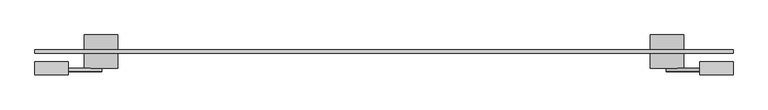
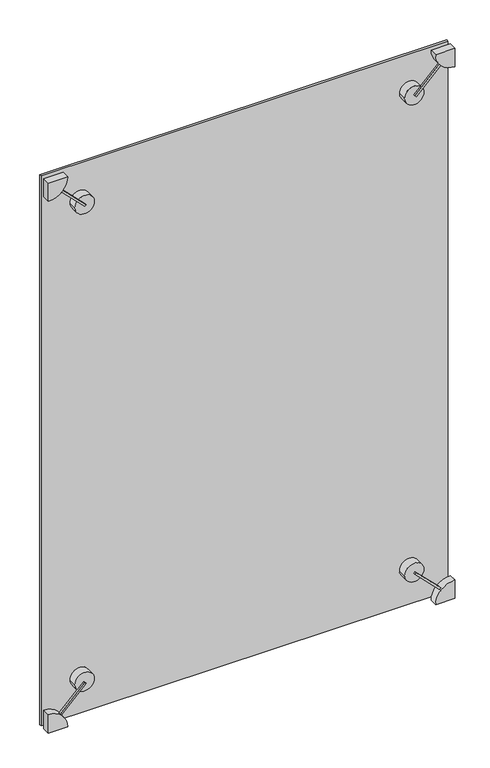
"""IFC4 building model written with IfcOpenShell, lengths in millimetres: plate geometry, 点爪式幕墙嵌板 : 点爪式幕墙嵌板."""

import ifcopenshell
import ifcopenshell.guid

model = None  # the IFC model being written
_history = None  # IfcOwnerHistory: only IFC2X3 demands one
_inside = {}  # id of a spatial element -> (the spatial element, [elements in it])
_under = {}  # id of a project, library or spatial element -> (it, [spatial elements below it])
_declared = {}  # id of a project -> (the project, [libraries it declares])
_typed = {}  # id of a type object -> (the type object, [elements of that type])
_made_of = {}  # id of a material, layer set ... -> (it, [elements and type objects made of it])


def new_model(schema):
    """Start an empty IFC model of exactly this schema.

    Asked for "IFC4X3", IfcOpenShell would pick the latest addendum, in which some entities
    have other attributes; the version numbers below select the first issue.
    IFC2X3 requires an IfcOwnerHistory on every rooted entity: one is made here for all.
    """
    global model, _history
    if schema == "IFC4X3":
        model = ifcopenshell.file(schema_version=(4, 3, 0, 0))
    else:
        model = ifcopenshell.file(schema=schema)
    _inside.clear()
    _under.clear()
    _declared.clear()
    _typed.clear()
    _made_of.clear()
    _history = None
    if model.schema == "IFC2X3":
        org = make("IfcOrganization", Name="unknown")
        user = make(
            "IfcPersonAndOrganization",
            ThePerson=make("IfcPerson", FamilyName="unknown"),
            TheOrganization=org,
        )
        app = make(
            "IfcApplication",
            ApplicationDeveloper=org,
            Version="unknown",
            ApplicationFullName="unknown",
            ApplicationIdentifier="unknown",
        )
        _history = make(
            "IfcOwnerHistory",
            OwningUser=user,
            OwningApplication=app,
            ChangeAction="ADDED",
            CreationDate=0,
        )
    return model


def make(cls, **values):
    """One entity of the class cls with the attributes given. An attribute that is None is left unset."""
    return model.create_entity(
        cls, **{name: value for name, value in values.items() if value is not None}
    )


def rooted(cls, **values):
    """An entity with a GlobalId (a new one), such as an element, a storey or a relation."""
    return make(cls, GlobalId=ifcopenshell.guid.new(), OwnerHistory=_history, **values)


def si_unit(unit_type, name, prefix=None):
    """IfcSIUnit, for example si_unit("LENGTHUNIT", "METRE", prefix="MILLI")."""
    return make("IfcSIUnit", UnitType=unit_type, Prefix=prefix, Name=name)


def assignment(units):
    """IfcUnitAssignment: the units of a project."""
    return None if units is None else make("IfcUnitAssignment", Units=units)


def point(xyz):
    """IfcCartesianPoint."""
    return None if xyz is None else make("IfcCartesianPoint", Coordinates=xyz)


def direction(xyz):
    """IfcDirection."""
    return None if xyz is None else make("IfcDirection", DirectionRatios=xyz)


def frame(location, z_axis=None, x_axis=None):
    """IfcAxis2Placement3D, a coordinate frame: its origin and axes. An axis left out is left unset."""
    return make(
        "IfcAxis2Placement3D",
        Location=point(location),
        Axis=direction(z_axis),
        RefDirection=direction(x_axis),
    )


def frame_2d(location, x_axis=None):
    """IfcAxis2Placement2D, a coordinate frame in the plane: its origin and x axis."""
    return make(
        "IfcAxis2Placement2D", Location=point(location), RefDirection=direction(x_axis)
    )


def origin():
    """The frame at (0, 0, 0) with its axes left unset."""
    return frame((0.0, 0.0, 0.0))


def origin_with_axes():
    """The frame at (0, 0, 0) with the z axis (0, 0, 1) and the x axis (1, 0, 0) written out."""
    return frame((0.0, 0.0, 0.0), z_axis=(0.0, 0.0, 1.0), x_axis=(1.0, 0.0, 0.0))


def place(relative_to, where):
    """IfcLocalPlacement: puts the frame where relative to a parent placement (None: the world)."""
    return make(
        "IfcLocalPlacement", PlacementRelTo=relative_to, RelativePlacement=where
    )


def context(
    kind, dimensions, precision=None, world=None, true_north=None, identifier=None
):
    """IfcGeometricRepresentationContext, for example the 3D "Model" context."""
    return make(
        "IfcGeometricRepresentationContext",
        ContextIdentifier=identifier,
        ContextType=kind,
        CoordinateSpaceDimension=dimensions,
        Precision=precision,
        WorldCoordinateSystem=world,
        TrueNorth=true_north,
    )


def project(units=None, contexts=None):
    """IfcProject with its units and contexts."""
    return rooted(
        "IfcProject",
        Name="project",
        RepresentationContexts=contexts,
        UnitsInContext=assignment(units),
    )


def spatial(cls, under=None, at=None, **own):
    """A site, building, storey or space (cls), placed at a placement, below another one or the project."""
    s = rooted(cls, ObjectPlacement=at, **own)
    if under is not None:
        _under.setdefault(under.id(), (under, []))[1].append(s)
    return s


def polyline(points):
    """IfcPolyline through the points."""
    return make("IfcPolyline", Points=[point(p) for p in points])


def circle_curve(where, radius):
    """IfcCircle in the frame where."""
    return make("IfcCircle", Position=where, Radius=radius)


def trimmed(basis, trim1, trim2, sense, master):
    """IfcTrimmedCurve: the piece of a basis curve between two trims."""
    return make(
        "IfcTrimmedCurve",
        BasisCurve=basis,
        Trim1=trim1,
        Trim2=trim2,
        SenseAgreement=sense,
        MasterRepresentation=master,
    )


def segment(curve, same_sense, transition):
    """IfcCompositeCurveSegment."""
    return make(
        "IfcCompositeCurveSegment",
        Transition=transition,
        SameSense=same_sense,
        ParentCurve=curve,
    )


def composite_curve(segments, self_intersect=None):
    """IfcCompositeCurve: segments joined end to end."""
    return make("IfcCompositeCurve", Segments=segments, SelfIntersect=self_intersect)


def outline(outer, holes=None, kind="AREA"):
    """IfcArbitraryClosedProfileDef: a profile drawn as a closed curve; with holes, ...WithVoids."""
    if holes is None:
        return make("IfcArbitraryClosedProfileDef", ProfileType=kind, OuterCurve=outer)
    return make(
        "IfcArbitraryProfileDefWithVoids",
        ProfileType=kind,
        OuterCurve=outer,
        InnerCurves=holes,
    )


def extrude(swept, where, along, depth):
    """IfcExtrudedAreaSolid: the profile swept, set in the frame where, extruded along a direction by depth."""
    return make(
        "IfcExtrudedAreaSolid",
        SweptArea=swept,
        Position=where,
        ExtrudedDirection=direction(along),
        Depth=depth,
    )


def shape(context_of_items, identifier, shape_type, items):
    """IfcShapeRepresentation: the items that make up one representation, for example the "Body"."""
    return make(
        "IfcShapeRepresentation",
        ContextOfItems=context_of_items,
        RepresentationIdentifier=identifier,
        RepresentationType=shape_type,
        Items=items,
    )


def source(mapping_origin, context_of_items, identifier, shape_type, items):
    """IfcRepresentationMap: a shape defined once, which mapped items show again and again."""
    return make(
        "IfcRepresentationMap",
        MappingOrigin=mapping_origin,
        MappedRepresentation=shape(context_of_items, identifier, shape_type, items),
    )


def transform(
    local_origin,
    x_axis=None,
    y_axis=None,
    z_axis=None,
    scale=None,
    scale2=None,
    scale3=None,
    uniform=True,
):
    """IfcCartesianTransformationOperator3D, or its non-uniform kind. x_axis, y_axis, z_axis: its Axis1, 2, 3."""
    if uniform:
        return make(
            "IfcCartesianTransformationOperator3D",
            Axis1=direction(x_axis),
            Axis2=direction(y_axis),
            LocalOrigin=point(local_origin),
            Scale=scale,
            Axis3=direction(z_axis),
        )
    return make(
        "IfcCartesianTransformationOperator3DnonUniform",
        Axis1=direction(x_axis),
        Axis2=direction(y_axis),
        LocalOrigin=point(local_origin),
        Scale=scale,
        Axis3=direction(z_axis),
        Scale2=scale2,
        Scale3=scale3,
    )


def mapped(mapping_source, mapping_target):
    """IfcMappedItem: shows the shape of a source again, moved by a transform."""
    return make(
        "IfcMappedItem", MappingSource=mapping_source, MappingTarget=mapping_target
    )


def made_of(thing, what):
    """Note that an element or type object is made of a material, layer set ...; save() writes the relation."""
    if what is not None:
        _made_of.setdefault(what.id(), (what, []))[1].append(thing)
    return thing


def element(
    cls,
    number,
    at=None,
    inside=None,
    cuts=None,
    type_object=None,
    material=None,
    context=None,
    identifier="Body",
    shape_type=None,
    held_by="IfcProductDefinitionShape",
    body=None,
    shapes=None,
    **own,
):
    """One element of the class cls, such as IfcWall. Its Tag is "e" and its number.

    at: its placement. inside: the storey or other place that contains it. cuts: it is an
    opening in that element (IfcRelVoidsElement). A single representation is given by context,
    identifier, shape_type and body (its items); several are given by shapes. held_by: the class
    of the entity that holds the representations. save() writes the other relations.
    """
    e = rooted(cls, Tag="e%d" % number, ObjectPlacement=at, **own)
    if body is not None:
        shapes = [shape(context, identifier, shape_type, body)]
    if shapes is not None:
        e.Representation = make(held_by, Representations=shapes)
    if inside is not None:
        _inside.setdefault(inside.id(), (inside, []))[1].append(e)
    if cuts is not None:
        rooted(
            "IfcRelVoidsElement", RelatingBuildingElement=cuts, RelatedOpeningElement=e
        )
    if type_object is not None:
        _typed.setdefault(type_object.id(), (type_object, []))[1].append(e)
    return made_of(e, material)


def aggregate(whole, parts):
    """IfcRelAggregates: a whole, such as a stair, and the parts it consists of."""
    return rooted("IfcRelAggregates", RelatingObject=whole, RelatedObjects=parts)


def save(model, path):
    """Write the relations noted so far, then the file.

    IfcRelAggregates (storeys below a building ...), IfcRelContainedInSpatialStructure (elements
    in a storey), IfcRelDefinesByType, IfcRelAssociatesMaterial and IfcRelDeclares: one each for
    every whole, place, type object, material and project.
    """
    for whole, parts in _under.values():
        aggregate(whole, parts)
    for where, things in _inside.values():
        rooted(
            "IfcRelContainedInSpatialStructure",
            RelatedElements=things,
            RelatingStructure=where,
        )
    for kind, things in _typed.values():
        rooted("IfcRelDefinesByType", RelatedObjects=things, RelatingType=kind)
    for what, things in _made_of.values():
        rooted("IfcRelAssociatesMaterial", RelatedObjects=things, RelatingMaterial=what)
    for by, libraries in _declared.values():
        rooted("IfcRelDeclares", RelatingContext=by, RelatedDefinitions=libraries)
    model.write(path)


def plane_surface(at):
    """IfcPlane: the flat surface through the origin of the frame at, square to its z axis."""
    return make("IfcPlane", Position=at)


def cylinder_surface(at, radius):
    """IfcCylindricalSurface: all points at the distance radius from the z axis of the frame at."""
    return make("IfcCylindricalSurface", Position=at, Radius=radius)


def advanced_brep(points, edges, surfaces, faces):
    """IfcAdvancedBrep: a solid bounded by faces that lie on surfaces and meet in shared edges.

    An edge is (start, end): straight between two places in points (the first is 0);
    or (start, end, curve); or (start, end, curve, False) where it runs against its curve.
    A face is (place in surfaces, loops), or (place, loops, False) where it looks against
    its surface's normal. A loop lists edges by number (the first is 1), with a minus sign
    where the edge is run from its end to its start. The first loop is the outer one.
    """
    corners = [point(p) for p in points]
    vertices = [make("IfcVertexPoint", VertexGeometry=c) for c in corners]
    made = []
    for start, end, *more in edges:
        made.append(
            make(
                "IfcEdgeCurve",
                EdgeStart=vertices[start],
                EdgeEnd=vertices[end],
                EdgeGeometry=more[0] if more else make("IfcPolyline", Points=[corners[start], corners[end]]),
                SameSense=more[1] if len(more) > 1 else True,
            )
        )
    hull = []
    for where, loops, *sense in faces:
        bounds = []
        for j, loop in enumerate(loops):
            ring = [make("IfcOrientedEdge", EdgeElement=made[abs(k) - 1], Orientation=k > 0) for k in loop]
            bounds.append(
                make(
                    "IfcFaceOuterBound" if j == 0 else "IfcFaceBound",
                    Bound=make("IfcEdgeLoop", EdgeList=ring),
                    Orientation=True,
                )
            )
        hull.append(make("IfcAdvancedFace", Bounds=bounds, FaceSurface=surfaces[where], SameSense=sense[0] if sense else True))
    return make("IfcAdvancedBrep", Outer=make("IfcClosedShell", CfsFaces=hull))


def plate_96117844(model_context):
    return source(origin(), model_context, "Body", "SolidModel", [
        extrude(outline(polyline([(0.0, -10.0), (0.0, 0.0), (10.0, 0.0), (10.0, -10.0), (0.0, -10.0)])), frame((-983.7667022, -60.0, 73.3043656), z_axis=(0.7071067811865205, 0.0, 0.7071067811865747), x_axis=(0.0, 1.0, 0.0)), (0.0, 0.0, 1.0), 181.331972),
        extrude(outline(composite_curve([segment(trimmed(circle_curve(frame_2d((0.0, -1050.0)), 100.0), [point((0.0, -950.0))], [point((100.0, -1050.0))], False, "CARTESIAN"), True, "CONTINUOUS"), segment(polyline([(100.0, -1050.0), (0.0, -1050.0), (0.0, -950.0)]), True, "CONTINUOUS")], self_intersect=False)), frame((0.0, -70.0, 0.0), z_axis=(0.0, 1.0, 0.0), x_axis=(0.0, 0.0, 1.0)), (0.0, 0.0, 1.0), 40.0),
        extrude(outline(composite_curve([segment(trimmed(circle_curve(frame_2d((199.0051024, -850.9948976)), 50.0), [point((199.0051024, -800.9948976))], [point((199.0051024, -900.9948976))], False, "CARTESIAN"), True, "CONTINUOUS"), segment(trimmed(circle_curve(frame_2d((199.0051024, -850.9948976)), 50.0), [point((199.0051024, -900.9948976))], [point((199.0051024, -800.9948976))], False, "CARTESIAN"), True, "CONTINUOUS")], self_intersect=False)), frame((0.0, -50.0, 0.0), z_axis=(0.0, 1.0, 0.0), x_axis=(0.0, 0.0, 1.0)), (0.0, 0.0, 1.0), 100.0),
        extrude(outline(polyline([(0.0, -181.3319719), (0.0, 0.0), (10.0, 0.0), (10.0, -181.3319719), (0.0, -181.3319719)])), frame((848.4745674, -60.0, 194.4543648), z_axis=(0.7071067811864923, 0.0, 0.7071067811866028), x_axis=(0.0, 1.0, 0.0)), (0.0, 0.0, 1.0), 10.0),
        extrude(outline(composite_curve([segment(polyline([(0.0, 950.0), (0.0, 1050.0), (100.0, 1050.0)]), True, "CONTINUOUS"), segment(trimmed(circle_curve(frame_2d((0.0, 1050.0)), 100.0), [point((100.0, 1050.0))], [point((0.0, 950.0))], False, "CARTESIAN"), True, "CONTINUOUS")], self_intersect=False)), frame((0.0, -70.0, 0.0), z_axis=(0.0, 1.0, 0.0), x_axis=(0.0, 0.0, 1.0)), (0.0, 0.0, 1.0), 40.0),
        extrude(outline(composite_curve([segment(trimmed(circle_curve(frame_2d((199.0051024, 850.9948976)), 50.0), [point((199.0051024, 800.9948976))], [point((199.0051024, 900.9948976))], False, "CARTESIAN"), True, "CONTINUOUS"), segment(trimmed(circle_curve(frame_2d((199.0051024, 850.9948976)), 50.0), [point((199.0051024, 900.9948976))], [point((199.0051024, 800.9948976))], False, "CARTESIAN"), True, "CONTINUOUS")], self_intersect=False)), frame((0.0, -50.0, 0.0), z_axis=(0.0, 1.0, 0.0), x_axis=(0.0, 0.0, 1.0)), (0.0, 0.0, 1.0), 100.0),
        extrude(outline(polyline([(0.0, -181.3319719), (0.0, 0.0), (10.0, 0.0), (10.0, -181.3319719), (0.0, -181.3319719)])), frame((-983.7667022, -60.0, 2926.6956344), z_axis=(0.7071067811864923, 0.0, 0.7071067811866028), x_axis=(0.0, 1.0, 0.0)), (0.0, 0.0, 1.0), 10.0),
        extrude(outline(composite_curve([segment(polyline([(3000.0, -950.0), (3000.0, -1050.0), (2900.0, -1050.0)]), True, "CONTINUOUS"), segment(trimmed(circle_curve(frame_2d((3000.0, -1050.0)), 100.0), [point((2900.0, -1050.0))], [point((3000.0, -950.0))], False, "CARTESIAN"), True, "CONTINUOUS")], self_intersect=False)), frame((0.0, -70.0, 0.0), z_axis=(0.0, 1.0, 0.0), x_axis=(0.0, 0.0, 1.0)), (0.0, 0.0, 1.0), 40.0),
        extrude(outline(composite_curve([segment(trimmed(circle_curve(frame_2d((2800.9948976, -850.9948976)), 50.0), [point((2800.9948976, -800.9948976))], [point((2800.9948976, -900.9948976))], False, "CARTESIAN"), True, "CONTINUOUS"), segment(trimmed(circle_curve(frame_2d((2800.9948976, -850.9948976)), 50.0), [point((2800.9948976, -900.9948976))], [point((2800.9948976, -800.9948976))], False, "CARTESIAN"), True, "CONTINUOUS")], self_intersect=False)), frame((0.0, -50.0, 0.0), z_axis=(0.0, 1.0, 0.0), x_axis=(0.0, 0.0, 1.0)), (0.0, 0.0, 1.0), 100.0),
        advanced_brep(
        [(800.9948976, -50.0, 2800.9948976), (900.9948976, -50.0, 2800.9948976), (889.7085497, -50.0, 2832.6374819), (855.5456352, -50.0, 2798.4745674), (848.4745674, -50.0, 2805.5456352), (882.6374819, -50.0, 2839.7085497), (800.9948976, 50.0, 2800.9948976), (900.9948976, 50.0, 2800.9948976), (848.4745674, -60.0, 2805.5456352), (855.5456352, -60.0, 2798.4745674), (982.9132994, -60.0, 2925.8422316), (975.8422316, -60.0, 2932.9132994), (975.8422316, -50.0, 2932.9132994), (982.9132994, -50.0, 2925.8422316), (950.0, -70.0, 3000.0), (1050.0, -70.0, 2900.0), (1050.0, -70.0, 3000.0), (950.0, -30.0, 3000.0), (1050.0, -30.0, 3000.0), (1050.0, -30.0, 2900.0)],
        [
            (0, 1, circle_curve(frame((850.9948976, -50.0, 2800.9948976), z_axis=(0.0, -1.0, 0.0), x_axis=(1.0, 0.0, 0.0)), 50.0)),
            (1, 2, circle_curve(frame((850.9948976, -50.0, 2800.9948976), z_axis=(0.0, -1.0, 0.0), x_axis=(1.0, 0.0, 0.0)), 50.0)),
            (2, 3),
            (3, 4),
            (4, 5),
            (5, 0, circle_curve(frame((850.9948976, -50.0, 2800.9948976), z_axis=(0.0, -1.0, 0.0), x_axis=(1.0, 0.0, 0.0)), 50.0)),
            (6, 7, circle_curve(frame((850.9948976, 50.0, 2800.9948976), z_axis=(0.0, 1.0, 0.0), x_axis=(1.0, 0.0, 0.0)), 50.0)),
            (7, 6, circle_curve(frame((850.9948976, 50.0, 2800.9948976), z_axis=(0.0, 1.0, 0.0), x_axis=(1.0, 0.0, 0.0)), 50.0)),
            (0, 6),
            (7, 1),
            (5, 2, circle_curve(frame((850.9948976, -50.0, 2800.9948976), z_axis=(0.0, 1.0, 0.0), x_axis=(1.0, 0.0, 0.0)), 50.0)),
            (8, 9),
            (9, 10),
            (10, 11, circle_curve(frame((1050.0, -60.0, 3000.0), z_axis=(0.0, 1.0, 0.0), x_axis=(1.0, 0.0, 0.0)), 100.0)),
            (11, 8),
            (5, 12),
            (12, 13, circle_curve(frame((1050.0, -50.0, 3000.0), z_axis=(0.0, -1.0, 0.0), x_axis=(1.0, 0.0, 0.0)), 100.0)),
            (13, 2),
            (4, 8),
            (11, 12),
            (3, 9),
            (13, 10),
            (14, 15, circle_curve(frame((1050.0, -70.0, 3000.0), z_axis=(0.0, -1.0, 0.0), x_axis=(1.0, 0.0, 0.0)), 100.0)),
            (15, 16),
            (16, 14),
            (17, 18),
            (18, 19),
            (19, 17, circle_curve(frame((1050.0, -30.0, 3000.0), z_axis=(0.0, 1.0, 0.0), x_axis=(1.0, 0.0, 0.0)), 100.0)),
            (14, 17),
            (19, 15),
            (18, 16),
        ],
        [
            plane_surface(frame((900.9948976, -50.0, 2800.9948976), z_axis=(0.0, -1.0, 0.0), x_axis=(0.0, 0.0, 1.0))),
            plane_surface(frame((900.9948976, 50.0, 2800.9948976), z_axis=(0.0, 1.0, 0.0), x_axis=(0.0, 0.0, -1.0))),
            cylinder_surface(frame((850.9948976, 50.0, 2800.9948976), z_axis=(0.0, -1.0, 0.0), x_axis=(1.0, 0.0, 0.0)), 50.0),
            plane_surface(frame((848.4745674, -60.0, 2805.5456352), z_axis=(0.0, -1.0000000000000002, 0.0), x_axis=(-0.7071067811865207, 0.0, -0.7071067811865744))),
            plane_surface(frame((848.4745674, -50.0, 2805.5456352), z_axis=(0.0, 1.0000000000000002, 0.0), x_axis=(0.7071067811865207, 0.0, 0.7071067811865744))),
            plane_surface(frame((976.6956344, -60.0, 2933.7667022), z_axis=(-0.7071067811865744, 0.0, 0.7071067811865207), x_axis=(0.0, 1.0, 0.0))),
            plane_surface(frame((848.4745674, -60.0, 2805.5456352), z_axis=(-0.7071067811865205, 0.0, -0.7071067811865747), x_axis=(0.0, 1.0, 0.0))),
            plane_surface(frame((855.5456352, -60.0, 2798.4745674), z_axis=(0.7071067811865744, 0.0, -0.7071067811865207), x_axis=(0.0, 1.0, 0.0))),
            plane_surface(frame((1150.0, -70.0, 3000.0), z_axis=(0.0, -1.0, 0.0), x_axis=(0.0, 0.0, 1.0))),
            plane_surface(frame((1150.0, -30.0, 3000.0), z_axis=(0.0, 1.0, 0.0), x_axis=(0.0, 0.0, -1.0))),
            cylinder_surface(frame((1050.0, -30.0, 3000.0), z_axis=(0.0, -1.0, 0.0), x_axis=(1.0, 0.0, 0.0)), 100.0),
            plane_surface(frame((1050.0, -70.0, 2900.0), z_axis=(1.0, 0.0, 0.0), x_axis=(0.0, 1.0, 0.0))),
            plane_surface(frame((1050.0, -70.0, 3000.0), z_axis=(0.0, 0.0, 1.0), x_axis=(0.0, 1.0, 0.0))),
        ],
        [
            (0, [[1, 2, 3, 4, 5, 6]]),
            (1, [[7, 8]]),
            (2, [[-1, 9, -8, 10]]),
            (2, [[-7, -9, -6, 11, -2, -10]]),
            (3, [[12, 13, 14, 15]]),
            (4, [[-11, 16, 17, 18]]),
            (5, [[19, -15, 20, -16, -5]]),
            (6, [[-12, -19, -4, 21]]),
            (7, [[-21, -3, -18, 22, -13]]),
            (8, [[23, 24, 25]]),
            (9, [[26, 27, 28]]),
            (10, [[-23, 29, -28, 30], [-14, -22, -17, -20]]),
            (11, [[-24, -30, -27, 31]]),
            (12, [[-25, -31, -26, -29]]),
        ],
    ),
        extrude(outline(polyline([(1050.0, 5.0), (1050.0, -5.0), (-1050.0, -5.0), (-1050.0, 5.0), (1050.0, 5.0)])), origin_with_axes(), (0.0, 0.0, 1.0), 3000.0),
    ])


if __name__ == "__main__":
    model = new_model("IFC4")
    model_context = context("Model", 3, world=origin())
    ifc_project = project(units=[si_unit("LENGTHUNIT", "METRE", prefix="MILLI")], contexts=[model_context])
    site = spatial("IfcSite", under=ifc_project)
    building = spatial("IfcBuilding", under=site)
    placement = place(None, origin())
    plate_shape = plate_96117844(model_context)
    element("IfcPlate", 1, ObjectType="点爪式幕墙嵌板 : 点爪式幕墙嵌板", at=placement, inside=building, context=model_context, shape_type="MappedRepresentation", body=[
        mapped(plate_shape, transform((0.0, 0.0, 0.0), x_axis=(1.0, 0.0, 0.0), y_axis=(0.0, 1.0, 0.0), z_axis=(0.0, 0.0, 1.0))),
    ])
    save(model, "model.ifc")
